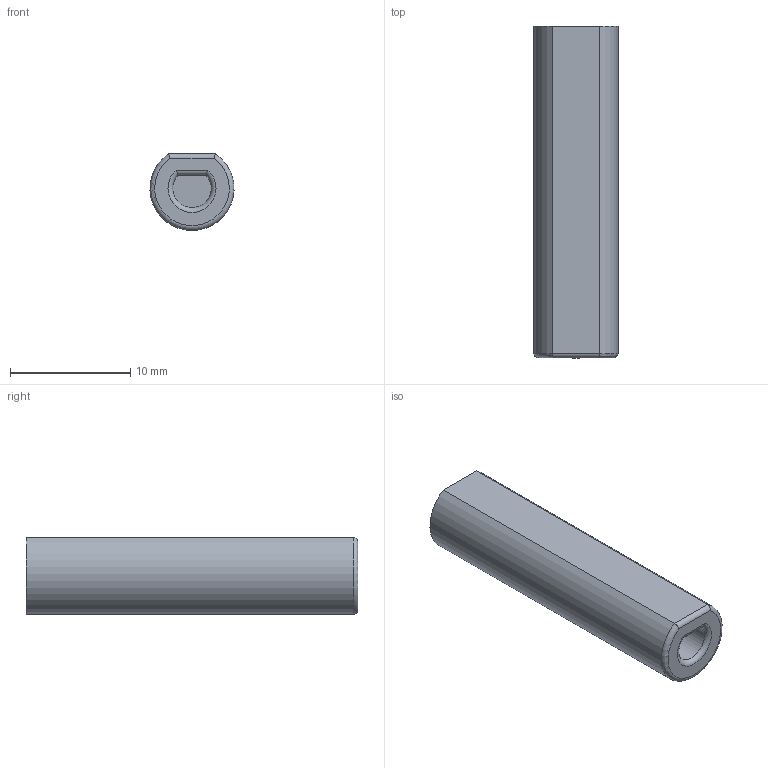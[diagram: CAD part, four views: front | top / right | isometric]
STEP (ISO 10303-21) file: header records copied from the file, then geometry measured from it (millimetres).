
FILE_DESCRIPTION(('Open CASCADE Model'),'2;1');
FILE_NAME('Open CASCADE Shape Model','2026-11-07T08:49:19',('Author'),( 'Open CASCADE'),'Open CASCADE STEP processor 8.0','build123d', 'Unknown');
FILE_SCHEMA(('AUTOMOTIVE_DESIGN { 1 0 10303 214 1 1 1 1 }'));
Length unit declared in the file: millimetre
Products named in the file (2): =>[0:1:1:2]; COMPOUND
Assembly tree (1 placements, depth 2):
  =>[0:1:1:2]
    COMPOUND
Bounding box: 6.99 x 27.63 x 6.4 mm (x, y, z)
Volume: 917.3 mm3; surface area: 814.1 mm2
Topology: 1 solids, 1 shells, 13 faces, 23 edges, 14 vertices
Faces by surface type: plane 6, cylinder 5, torus 2
Full cylindrical faces by diameter (mm): 2.5 x1
Entity records: 772 total; most frequent: CARTESIAN_POINT 284, DIRECTION 81, ORIENTED_EDGE 46, PCURVE 46, DEFINITIONAL_REPRESENTATION 46, LINE 31, VECTOR 31, B_SPLINE_CURVE_WITH_KNOTS 24
